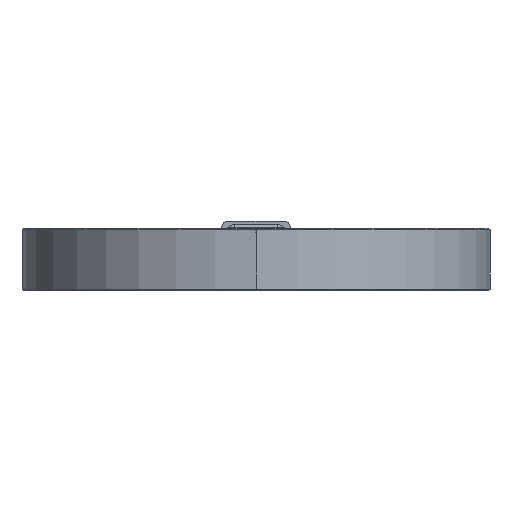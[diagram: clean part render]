
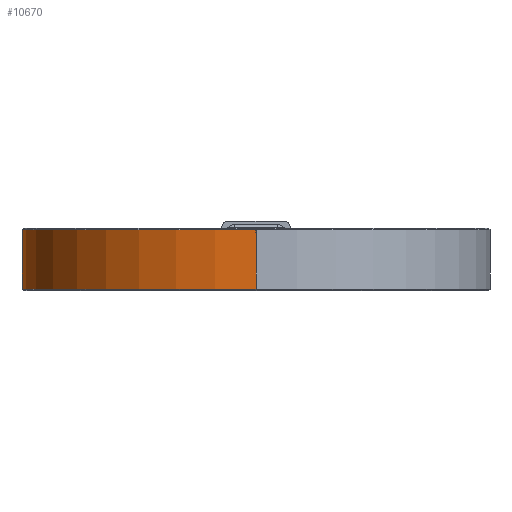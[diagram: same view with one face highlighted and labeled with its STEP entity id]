
A CAD part, left-side view. The second image highlights one B-rep face of the part: STEP entity #10670.
In plain terms, the highlighted cylindrical face has radius 37.5 mm (diameter 75 mm), a partial arc.
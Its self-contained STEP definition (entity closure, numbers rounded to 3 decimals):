
#611 = LINE ( 'NONE', #23411, #28412 ) ;
#1440 = FACE_OUTER_BOUND ( 'NONE', #18736, .T. ) ;
#1581 = CARTESIAN_POINT ( 'NONE',  ( 37.478, 1.272, 6.624 ) ) ;
#1931 = DIRECTION ( 'NONE',  ( 0., 0., -1. ) ) ;
#2284 = DIRECTION ( 'NONE',  ( 0., 0., -1. ) ) ;
#3276 = CARTESIAN_POINT ( 'NONE',  ( -37.5, 0., 9.75 ) ) ;
#3380 = ORIENTED_EDGE ( 'NONE', *, *, #23630, .T. ) ;
#3612 = AXIS2_PLACEMENT_3D ( 'NONE', #29825, #17578, #27495 ) ;
#3793 = DIRECTION ( 'NONE',  ( 1., 0., 0. ) ) ;
#4050 = CARTESIAN_POINT ( 'NONE',  ( 37.492, 0.802, 6.212 ) ) ;
#4168 = EDGE_CURVE ( 'NONE', #10542, #13103, #28066, .T. ) ;
#4390 = EDGE_CURVE ( 'NONE', #7450, #9330, #11690, .T. ) ;
#5530 = CARTESIAN_POINT ( 'NONE',  ( 37.5, 0., 6. ) ) ;
#5574 = DIRECTION ( 'NONE',  ( 0., 0., 1. ) ) ;
#5685 = VERTEX_POINT ( 'NONE', #15637 ) ;
#5946 = DIRECTION ( 'NONE',  ( 0., 0., 1. ) ) ;
#6060 = CARTESIAN_POINT ( 'NONE',  ( 37.466, 1.6, 7.6 ) ) ;
#6162 = ORIENTED_EDGE ( 'NONE', *, *, #25463, .T. ) ;
#6354 = CARTESIAN_POINT ( 'NONE',  ( 37.493, 0.709, 6.162 ) ) ;
#6377 = CYLINDRICAL_SURFACE ( 'NONE', #31651, 37.5 ) ;
#6688 = CARTESIAN_POINT ( 'NONE',  ( 37.5, 0.21, 6.01 ) ) ;
#7450 = VERTEX_POINT ( 'NONE', #5530 ) ;
#7876 = DIRECTION ( 'NONE',  ( 0., 0., -1. ) ) ;
#8313 = EDGE_CURVE ( 'NONE', #14265, #13103, #10214, .T. ) ;
#8592 = ORIENTED_EDGE ( 'NONE', *, *, #4168, .F. ) ;
#8863 = CARTESIAN_POINT ( 'NONE',  ( 37.466, 1.6, 7.6 ) ) ;
#8958 = ORIENTED_EDGE ( 'NONE', *, *, #23774, .F. ) ;
#9185 = CARTESIAN_POINT ( 'NONE',  ( 37.485, 1.056, 6.394 ) ) ;
#9330 = VERTEX_POINT ( 'NONE', #12753 ) ;
#9550 = B_SPLINE_CURVE_WITH_KNOTS ( 'NONE', 3,
 ( #23730, #31653, #6688, #21414, #23893, #6354, #4050, #11181, #9185, #14126, #1581, #19245, #19416, #11668, #31493, #8863 ),
 .UNSPECIFIED., .F., .F.,
 ( 4, 2, 2, 2, 2, 2, 2, 4 ),
 ( 0.003, 0.003, 0.003, 0.003, 0.004, 0.004, 0.004, 0.005 ),
 .UNSPECIFIED. ) ;
#9702 = CARTESIAN_POINT ( 'NONE',  ( 37.5, 0., 10. ) ) ;
#10214 = CIRCLE ( 'NONE', #20237, 37.5 ) ;
#10542 = VERTEX_POINT ( 'NONE', #6060 ) ;
#10624 = VERTEX_POINT ( 'NONE', #3276 ) ;
#10670 = ADVANCED_FACE ( 'NONE', ( #1440 ), #6377, .T. ) ;
#10841 = ORIENTED_EDGE ( 'NONE', *, *, #25195, .T. ) ;
#11181 = CARTESIAN_POINT ( 'NONE',  ( 37.487, 0.976, 6.328 ) ) ;
#11522 = DIRECTION ( 'NONE',  ( -1., 0., 0. ) ) ;
#11668 = CARTESIAN_POINT ( 'NONE',  ( 37.468, 1.558, 7.181 ) ) ;
#11690 = LINE ( 'NONE', #9702, #19349 ) ;
#12613 = ORIENTED_EDGE ( 'NONE', *, *, #16347, .F. ) ;
#12753 = CARTESIAN_POINT ( 'NONE',  ( 37.5, 0., 0.25 ) ) ;
#13103 = VERTEX_POINT ( 'NONE', #26887 ) ;
#14126 = CARTESIAN_POINT ( 'NONE',  ( 37.481, 1.206, 6.543 ) ) ;
#14265 = VERTEX_POINT ( 'NONE', #20682 ) ;
#15637 = CARTESIAN_POINT ( 'NONE',  ( 37.5, 0., 9.75 ) ) ;
#16347 = EDGE_CURVE ( 'NONE', #7450, #10542, #9550, .T. ) ;
#17578 = DIRECTION ( 'NONE',  ( 0., 0., 1. ) ) ;
#18736 = EDGE_LOOP ( 'NONE', ( #3380, #10841, #24806, #8592, #12613, #28465, #6162, #8958 ) ) ;
#18813 = VECTOR ( 'NONE', #25245, 1000. ) ;
#19245 = CARTESIAN_POINT ( 'NONE',  ( 37.474, 1.388, 6.797 ) ) ;
#19349 = VECTOR ( 'NONE', #1931, 1000. ) ;
#19416 = CARTESIAN_POINT ( 'NONE',  ( 37.472, 1.438, 6.89 ) ) ;
#20237 = AXIS2_PLACEMENT_3D ( 'NONE', #28901, #5946, #3793 ) ;
#20682 = CARTESIAN_POINT ( 'NONE',  ( 37.5, 0., 9.2 ) ) ;
#21414 = CARTESIAN_POINT ( 'NONE',  ( 37.498, 0.415, 6.051 ) ) ;
#21781 = CARTESIAN_POINT ( 'NONE',  ( 0., 0., 9.75 ) ) ;
#21916 = DIRECTION ( 'NONE',  ( 0., 0., -1. ) ) ;
#23040 = CIRCLE ( 'NONE', #28850, 37.5 ) ;
#23224 = VERTEX_POINT ( 'NONE', #29255 ) ;
#23411 = CARTESIAN_POINT ( 'NONE',  ( 37.5, 0., 10. ) ) ;
#23630 = EDGE_CURVE ( 'NONE', #10624, #5685, #23040, .T. ) ;
#23730 = CARTESIAN_POINT ( 'NONE',  ( 37.5, 0., 6. ) ) ;
#23774 = EDGE_CURVE ( 'NONE', #10624, #23224, #28378, .T. ) ;
#23893 = CARTESIAN_POINT ( 'NONE',  ( 37.497, 0.515, 6.082 ) ) ;
#24806 = ORIENTED_EDGE ( 'NONE', *, *, #8313, .T. ) ;
#25195 = EDGE_CURVE ( 'NONE', #5685, #14265, #611, .T. ) ;
#25245 = DIRECTION ( 'NONE',  ( 0., 0., -1. ) ) ;
#25463 = EDGE_CURVE ( 'NONE', #9330, #23224, #26306, .T. ) ;
#25735 = CARTESIAN_POINT ( 'NONE',  ( -37.5, 0., 10. ) ) ;
#26306 = CIRCLE ( 'NONE', #3612, 37.5 ) ;
#26887 = CARTESIAN_POINT ( 'NONE',  ( 37.466, 1.6, 9.2 ) ) ;
#27495 = DIRECTION ( 'NONE',  ( 1., 0., 0. ) ) ;
#28066 = LINE ( 'NONE', #28231, #31962 ) ;
#28231 = CARTESIAN_POINT ( 'NONE',  ( 37.466, 1.6, 0. ) ) ;
#28378 = LINE ( 'NONE', #25735, #18813 ) ;
#28412 = VECTOR ( 'NONE', #7876, 1000. ) ;
#28465 = ORIENTED_EDGE ( 'NONE', *, *, #4390, .T. ) ;
#28850 = AXIS2_PLACEMENT_3D ( 'NONE', #21781, #2284, #29549 ) ;
#28901 = CARTESIAN_POINT ( 'NONE',  ( 0., 0., 9.2 ) ) ;
#29255 = CARTESIAN_POINT ( 'NONE',  ( -37.5, 0., 0.25 ) ) ;
#29549 = DIRECTION ( 'NONE',  ( 1., 0., 0. ) ) ;
#29825 = CARTESIAN_POINT ( 'NONE',  ( 0., 0., 0.25 ) ) ;
#31493 = CARTESIAN_POINT ( 'NONE',  ( 37.466, 1.6, 7.389 ) ) ;
#31516 = CARTESIAN_POINT ( 'NONE',  ( 0., 0., 10. ) ) ;
#31651 = AXIS2_PLACEMENT_3D ( 'NONE', #31516, #21916, #11522 ) ;
#31653 = CARTESIAN_POINT ( 'NONE',  ( 37.5, 0.104, 6. ) ) ;
#31962 = VECTOR ( 'NONE', #5574, 1000. ) ;
